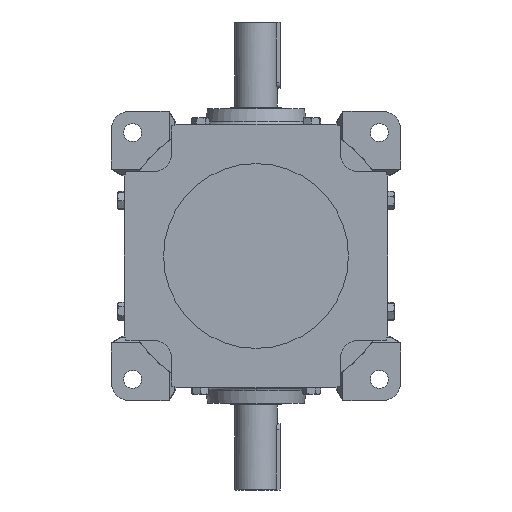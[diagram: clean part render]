
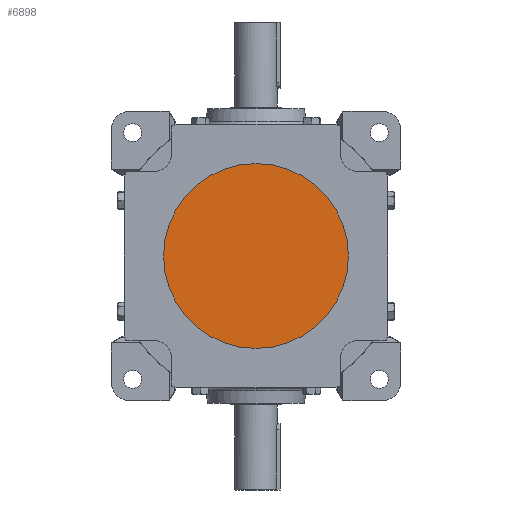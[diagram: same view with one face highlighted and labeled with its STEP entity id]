
A CAD part, front view. The second image highlights one B-rep face of the part: STEP entity #6898.
In plain terms, the highlighted planar face has unit normal (0, -1, 0).
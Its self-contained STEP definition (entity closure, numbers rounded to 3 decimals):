
#392 = CARTESIAN_POINT ( 'NONE',  ( 0., -152.6, -108.612 ) ) ;
#1981 = AXIS2_PLACEMENT_3D ( 'NONE', #2884, #7067, #4319 ) ;
#2884 = CARTESIAN_POINT ( 'NONE',  ( 0., -152.6, 0. ) ) ;
#4319 = DIRECTION ( 'NONE',  ( 0., 0., -1. ) ) ;
#4786 = EDGE_CURVE ( 'NONE', #13192, #13206, #16657, .T. ) ;
#5910 = CIRCLE ( 'NONE', #12458, 108.612 ) ;
#5918 = DIRECTION ( 'NONE',  ( 0., 0., -1. ) ) ;
#6898 = ADVANCED_FACE ( 'NONE', ( #8134 ), #15662, .T. ) ;
#7067 = DIRECTION ( 'NONE',  ( 0., -1., 0. ) ) ;
#8134 = FACE_OUTER_BOUND ( 'NONE', #16414, .T. ) ;
#9337 = DIRECTION ( 'NONE',  ( 0., -1., 0. ) ) ;
#10115 = ORIENTED_EDGE ( 'NONE', *, *, #16402, .T. ) ;
#12458 = AXIS2_PLACEMENT_3D ( 'NONE', #14511, #13188, #5918 ) ;
#13188 = DIRECTION ( 'NONE',  ( 0., -1., 0. ) ) ;
#13192 = VERTEX_POINT ( 'NONE', #392 ) ;
#13206 = VERTEX_POINT ( 'NONE', #17487 ) ;
#14511 = CARTESIAN_POINT ( 'NONE',  ( 0., -152.6, 0. ) ) ;
#14588 = ORIENTED_EDGE ( 'NONE', *, *, #4786, .T. ) ;
#15514 = AXIS2_PLACEMENT_3D ( 'NONE', #16314, #9337, #16374 ) ;
#15662 = PLANE ( 'NONE',  #1981 ) ;
#16314 = CARTESIAN_POINT ( 'NONE',  ( 0., -152.6, 0. ) ) ;
#16374 = DIRECTION ( 'NONE',  ( 0., 0., -1. ) ) ;
#16402 = EDGE_CURVE ( 'NONE', #13206, #13192, #5910, .T. ) ;
#16414 = EDGE_LOOP ( 'NONE', ( #14588, #10115 ) ) ;
#16657 = CIRCLE ( 'NONE', #15514, 108.612 ) ;
#17487 = CARTESIAN_POINT ( 'NONE',  ( 0., -152.6, 108.612 ) ) ;
